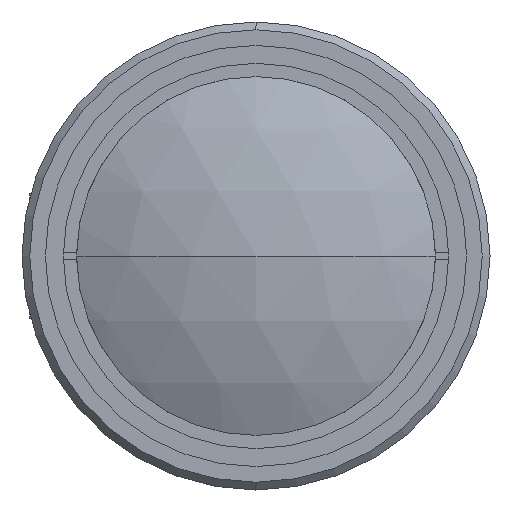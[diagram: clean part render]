
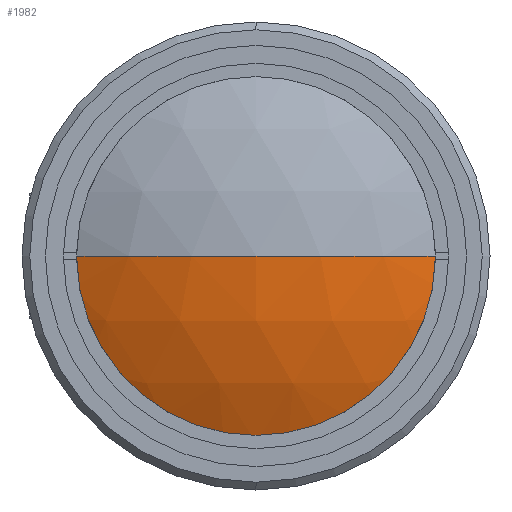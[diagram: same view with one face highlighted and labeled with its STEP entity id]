
A CAD part, left-side view. The second image highlights one B-rep face of the part: STEP entity #1982.
In plain terms, the highlighted spherical face has radius 52.8 mm.
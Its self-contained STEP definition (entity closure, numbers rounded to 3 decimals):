
#58 = DIRECTION ( 'NONE',  ( 0., 1., 0. ) ) ;
#351 = EDGE_CURVE ( 'NONE', #1202, #1951, #638, .T. ) ;
#547 = ORIENTED_EDGE ( 'NONE', *, *, #1647, .T. ) ;
#638 = CIRCLE ( 'NONE', #3754, 52.8 ) ;
#1018 = CARTESIAN_POINT ( 'NONE',  ( 6.878, 0., 0. ) ) ;
#1202 = VERTEX_POINT ( 'NONE', #3895 ) ;
#1227 = AXIS2_PLACEMENT_3D ( 'NONE', #1643, #3877, #58 ) ;
#1333 = DIRECTION ( 'NONE',  ( 0., 0., 1. ) ) ;
#1608 = VERTEX_POINT ( 'NONE', #2705 ) ;
#1634 = CARTESIAN_POINT ( 'NONE',  ( 53.908, 0., 0. ) ) ;
#1643 = CARTESIAN_POINT ( 'NONE',  ( 53.908, 0., 0. ) ) ;
#1645 = AXIS2_PLACEMENT_3D ( 'NONE', #1018, #3249, #1333 ) ;
#1647 = EDGE_CURVE ( 'NONE', #1608, #1951, #4113, .T. ) ;
#1762 = CARTESIAN_POINT ( 'NONE',  ( 53.908, 0., 0. ) ) ;
#1879 = ORIENTED_EDGE ( 'NONE', *, *, #351, .F. ) ;
#1951 = VERTEX_POINT ( 'NONE', #3327 ) ;
#1956 = DIRECTION ( 'NONE',  ( 1., 0., 0. ) ) ;
#1982 = ADVANCED_FACE ( 'NONE', ( #2403 ), #3908, .T. ) ;
#1983 = EDGE_CURVE ( 'NONE', #1202, #1608, #3054, .T. ) ;
#2000 = EDGE_LOOP ( 'NONE', ( #3774, #547, #1879 ) ) ;
#2088 = DIRECTION ( 'NONE',  ( 0., 1., 0. ) ) ;
#2403 = FACE_OUTER_BOUND ( 'NONE', #2000, .T. ) ;
#2705 = CARTESIAN_POINT ( 'NONE',  ( 6.878, -24., 0. ) ) ;
#3054 = CIRCLE ( 'NONE', #1645, 24. ) ;
#3249 = DIRECTION ( 'NONE',  ( -1., 0., 0. ) ) ;
#3327 = CARTESIAN_POINT ( 'NONE',  ( 1.108, 0., 0. ) ) ;
#3754 = AXIS2_PLACEMENT_3D ( 'NONE', #1634, #3872, #1956 ) ;
#3774 = ORIENTED_EDGE ( 'NONE', *, *, #1983, .T. ) ;
#3872 = DIRECTION ( 'NONE',  ( 0., 0., 1. ) ) ;
#3877 = DIRECTION ( 'NONE',  ( 0., 0., -1. ) ) ;
#3895 = CARTESIAN_POINT ( 'NONE',  ( 6.878, 24., 0. ) ) ;
#3908 = SPHERICAL_SURFACE ( 'NONE', #1227, 52.8 ) ;
#3951 = AXIS2_PLACEMENT_3D ( 'NONE', #1762, #4008, #2088 ) ;
#4008 = DIRECTION ( 'NONE',  ( 0., 0., -1. ) ) ;
#4113 = CIRCLE ( 'NONE', #3951, 52.8 ) ;
